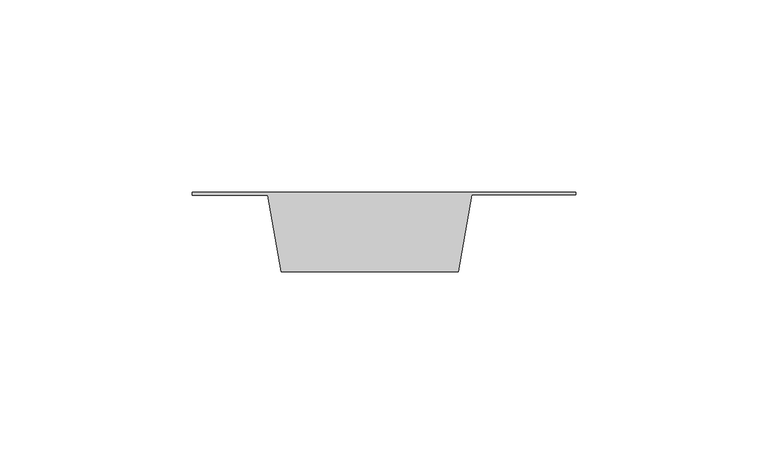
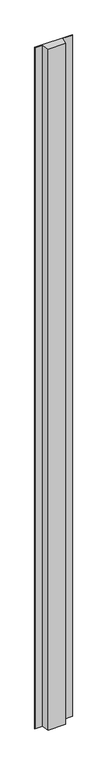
"""IFC4 building model written with IfcOpenShell, lengths in millimetres: plate geometry, ATELIERS 3S_NEW YORK QUEENS 980_VERTICAL : AZURO."""

from ifc_helpers import new_model, si_unit, origin, origin_with_axes, place, context, project, spatial, polyline, outline, extrude, source, transform, mapped, element, save


def plate_8f373205(model_context):
    return source(origin(), model_context, "Body", "SweptSolid", [
        extrude(outline(polyline([(-49.9999998, 0.0), (49.9999998, 0.0), (49.9999998, -0.75), (22.8677417, -0.75), (19.3412021, -20.75), (-26.7881226, -20.75), (-30.3058459, -0.8), (-49.9999998, -0.8), (-49.9999998, 0.0)])), origin_with_axes(), (0.0, 0.0, 1.0), 1900.0),
    ])


if __name__ == "__main__":
    model = new_model("IFC4")
    model_context = context("Model", 3, world=origin())
    ifc_project = project(units=[si_unit("LENGTHUNIT", "METRE", prefix="MILLI")], contexts=[model_context])
    site = spatial("IfcSite", under=ifc_project)
    building = spatial("IfcBuilding", under=site)
    placement = place(None, origin())
    plate_shape = plate_8f373205(model_context)
    element("IfcPlate", 1, ObjectType="ATELIERS 3S_NEW YORK QUEENS 980_VERTICAL : AZURO", at=placement, inside=building, context=model_context, shape_type="MappedRepresentation", body=[
        mapped(plate_shape, transform((0.0, 0.0, 0.0), x_axis=(1.0, 0.0, 0.0), y_axis=(0.0, 1.0, 0.0), z_axis=(0.0, 0.0, 1.0))),
    ])
    save(model, "model.ifc")
